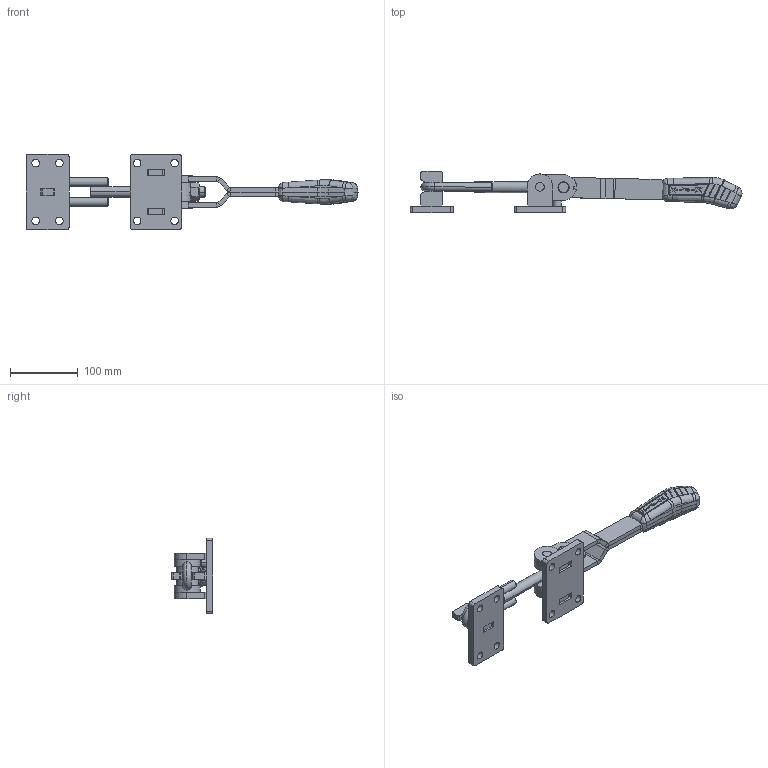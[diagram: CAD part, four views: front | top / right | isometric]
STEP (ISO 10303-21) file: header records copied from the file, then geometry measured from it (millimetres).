
FILE_DESCRIPTION (( 'STEP AP203' ), '1' );
FILE_NAME ('KF-340.STEP', '2014-08-22T14:17:24', ( 'Ricardo' ), ( '' ), 'SwSTEP 2.0', 'SolidWorks 2013', '' );
FILE_SCHEMA (( 'CONFIG_CONTROL_DESIGN' ));
Length unit declared in the file: millimetre
Products named in the file (14): 11.50006; 08.10077; KF-340; 03.20083; 03.20084; 16.20120; 04.20013; 02.10057; 16.20023; 02.10058; 01.10181; 15.10109; 07.60003; 15.10110
Assembly tree (17 placements, depth 2):
  KF-340
    02.10057
    02.10058
    15.10109
    15.10110  x2
    08.10077  x2
    03.20083
    03.20084
    16.20120
    04.20013
    16.20023  x2
    01.10181  x2
    07.60003
    11.50006
Bounding box: 490.15 x 61.02 x 112 mm (x, y, z)
Volume: 489462.5 mm3; surface area: 148465.3 mm2
Topology: 17 solids, 17 shells, 709 faces, 1810 edges, 1143 vertices
Faces by surface type: plane 271, cylinder 206, bspline 143, sphere 48, cone 36, torus 5
Entity records: 24095 total; most frequent: CARTESIAN_POINT 8838, ORIENTED_EDGE 3148, DIRECTION 2425, EDGE_CURVE 1574, VERTEX_POINT 997, AXIS2_PLACEMENT_3D 924, EDGE_LOOP 677, ADVANCED_FACE 623
